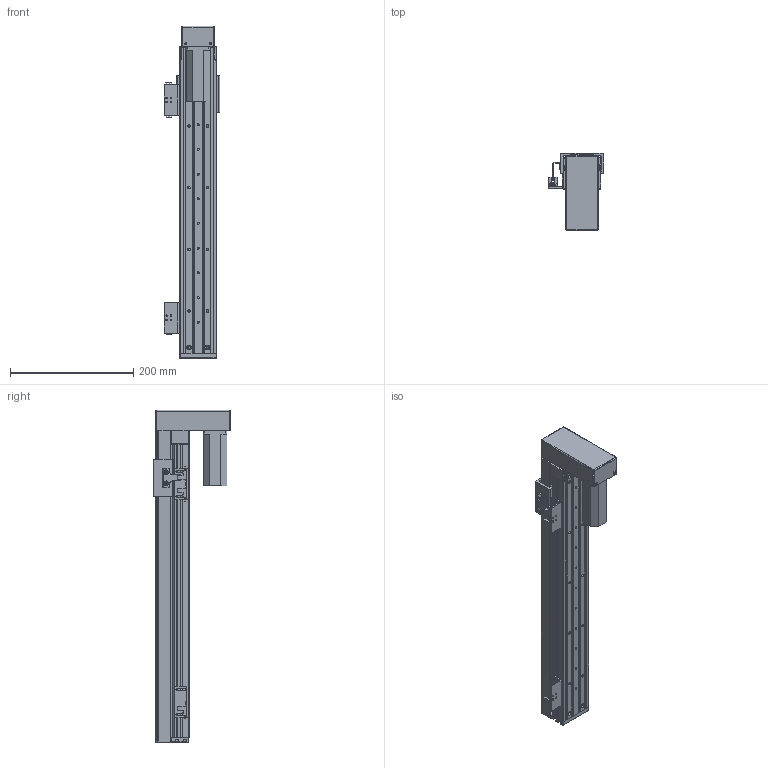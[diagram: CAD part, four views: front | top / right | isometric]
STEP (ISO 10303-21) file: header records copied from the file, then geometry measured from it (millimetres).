
FILE_DESCRIPTION (( 'STEP AP203' ), '1' );
FILE_NAME ('RY60FB-L1210-300-BK.SLDASM_350.step', '2021-02-23T00:55:22', ( '盈信电脑' ), ( '东莞市道滘镇水果街19号' ), 'SwSTEP 2.0', 'SolidWorks 2012', '' );
FILE_SCHEMA (( 'CONFIG_CONTROL_DESIGN' ));
Length unit declared in the file: millimetre
Products named in the file (15): RY60FB-L1210-300-BK.SLDASM_350; RY60FB-蛌殏萇儂欶; RY60FB-狟殏萇儂假蚾啣; RY60FB-674嫖萇耀輸; 覜茼ん674; RY60FB-感应器674光电安装座; RY60FB转折电机端支撑座; RY60FB綴裔啣; RY80俋离覜茼え; RY60FB-臏賑輸; RY60FB-蛌殏奻裔-300-BK_350; 滅袉蝶18-10; 侂狟100W; RY60FB-蛌殏菁釱-300-BK_350
Assembly tree (20 placements, depth 3):
  RY60FB-L1210-300-BK.SLDASM_350
    RY60FB-蛌殏菁釱-300-BK_350
    RY60FB-臏賑輸
    滅袉蝶18-10  x4
    RY60FB-蛌殏奻裔-300-BK_350
    侂狟100W
    RY60FB綴裔啣
    RY60FB转折电机端支撑座
    RY80俋离覜茼え
    RY60FB-674嫖萇耀輸
      RY60FB-感应器674光电安装座
      覜茼ん674  x2
    RY60FB-674嫖萇耀輸
      RY60FB-感应器674光电安装座
      覜茼ん674
    RY60FB-狟殏萇儂假蚾啣
    RY60FB-蛌殏萇儂欶
Bounding box: 90 x 125.45 x 538 mm (x, y, z)
Volume: 772981.5 mm3; surface area: 421337.9 mm2
Topology: 18 solids, 18 shells, 1083 faces, 2950 edges, 1876 vertices
Faces by surface type: plane 529, cylinder 449, cone 97, bspline 8
Entity records: 31055 total; most frequent: CARTESIAN_POINT 6057, DIRECTION 4902, ORIENTED_EDGE 4796, EDGE_CURVE 2398, AXIS2_PLACEMENT_3D 1709, VERTEX_POINT 1552, VECTOR 1484, LINE 1484
